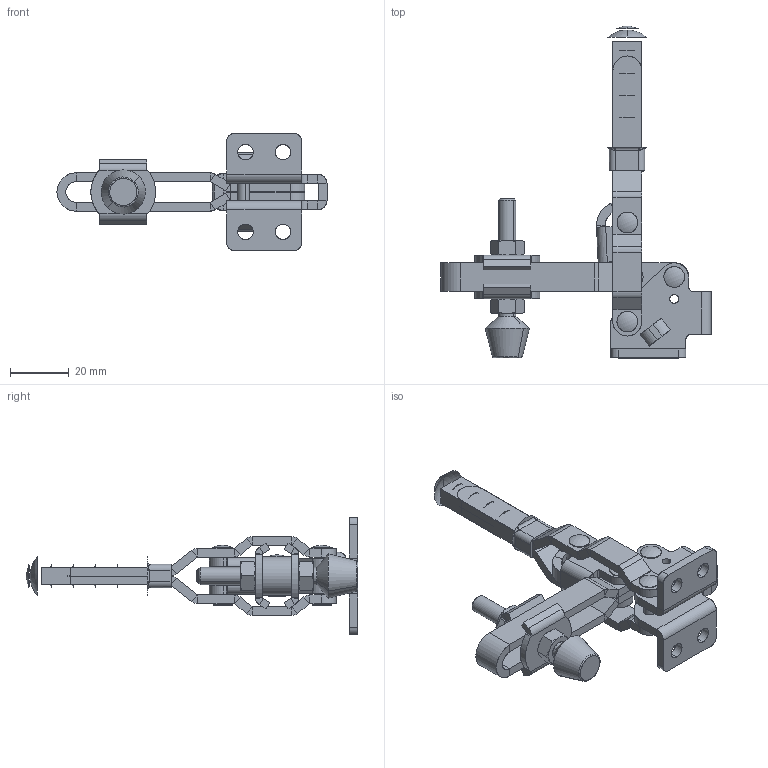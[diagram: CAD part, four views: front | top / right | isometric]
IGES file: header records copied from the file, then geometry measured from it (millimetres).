
Start section: SolidWorks IGES file using analytic representation for surfaces
Global section: file name: \\BARTOP_SV6\share\SOLIDWORKS\工具事業部\坂入用\Toggle clamp\ISK-HV2530-UL\ISK-HV2530-UL.IGS; native system: SolidWorks 2015; preprocessor: SolidWorks 2015; author: SOLID02; date: 150724.142051; units: millimetre
Bounding box: 91.6 x 112.57 x 39.7 mm (x, y, z)
Surface area: 25073.4 mm2 (no closed solid volume)
Topology: 0 solids, 0 shells, 521 faces, 6032 edges, 6031 vertices
Faces by surface type: bspline 292, revolution 229
